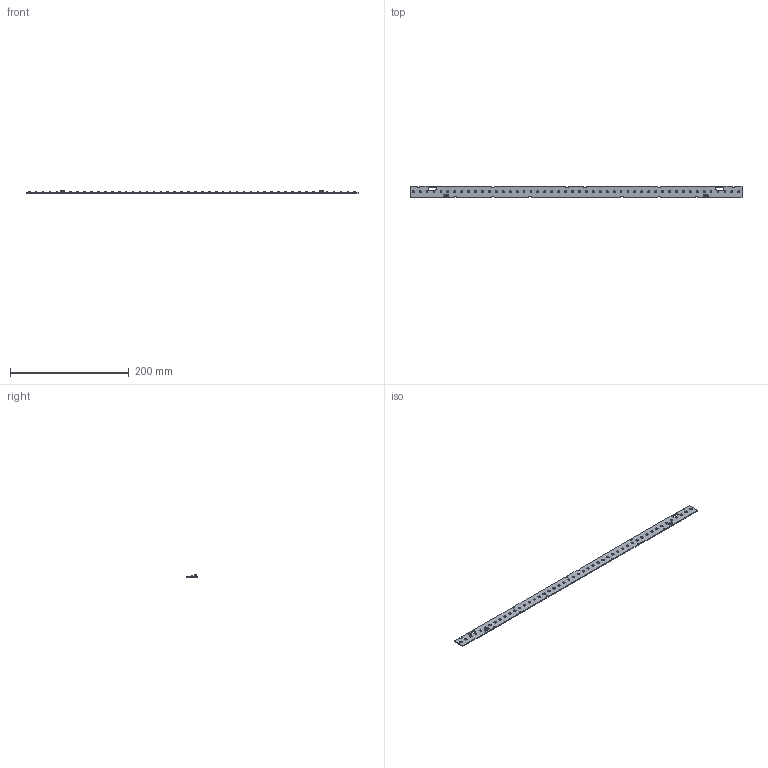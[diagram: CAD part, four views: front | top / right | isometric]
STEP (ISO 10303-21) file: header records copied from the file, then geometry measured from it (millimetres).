
FILE_DESCRIPTION(/* description */ (''),/* implementation_level */ '2;1');
FILE_NAME(/* name */ 'C:\Data\Vault\LE-TPD\9290 039 98600_Fortimo LED Strip 2ft MF HE FC HV6\Fortimo LED Strip 2ft MF HE FC HV6 2024-07-24.stp',/* time_stamp */ '2024-07-24T13:14:32+02:00',/* author */ ('600010516'),/* organization */ (''),/* preprocessor_version */ 'ST-DEVELOPER v18.1',/* originating_system */ 'Autodesk Inventor 2022',/* authorisation */ '');
FILE_SCHEMA (('AUTOMOTIVE_DESIGN { 1 0 10303 214 3 1 1 }'));
Products named in the file (1): Fortimo LED Strip 2ft MF HE FC HV6 2024-07-23
Bounding box: 559.2 x 20 x 4.3 mm (x, y, z)
Volume: 17860.8 mm3; surface area: 25172.1 mm2
Topology: 1 solids, 193 shells, 7628 faces, 21064 edges, 14034 vertices
Faces by surface type: plane 5460, cylinder 1896, cone 192, bspline 80
Entity records: 254631 total; most frequent: CARTESIAN_POINT 48235, ORIENTED_EDGE 42120, DIRECTION 40100, EDGE_CURVE 21060, LINE 16666, VECTOR 16666, VERTEX_POINT 14034, AXIS2_PLACEMENT_3D 11717
